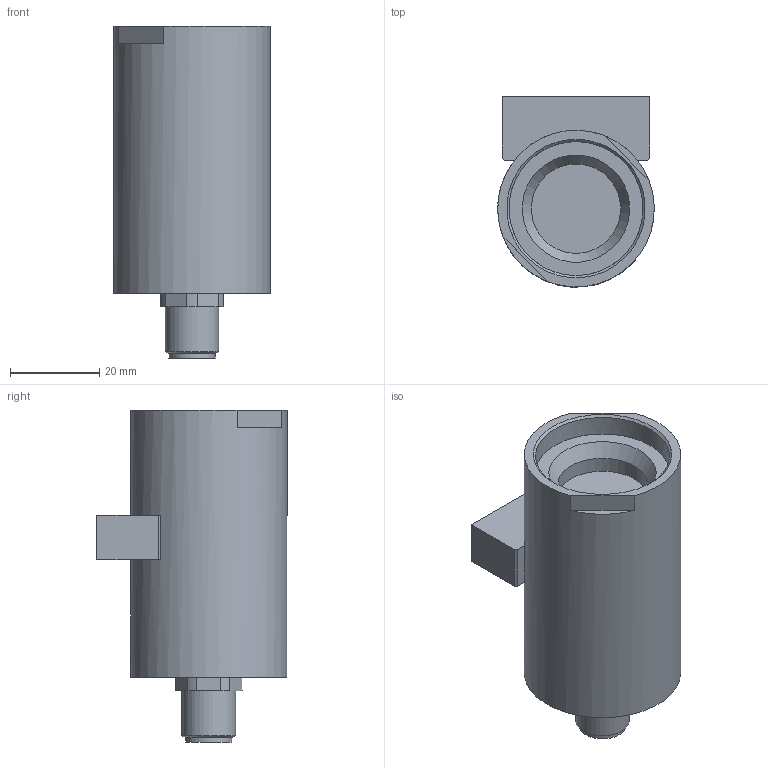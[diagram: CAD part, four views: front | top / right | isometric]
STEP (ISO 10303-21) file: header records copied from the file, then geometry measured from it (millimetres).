
FILE_DESCRIPTION( ( '' ), '1' );
FILE_NAME( 'L:/01_Produktserie LUMIMAX/Spot-Serie/Spot3W/03_Konstruktion/Spot3W Datenblatt & Download/Spot3W.stp', '%{Zugriffsdatum}', ( 'Christian Koch' ), ( 'iiM AG' ), 'PSStep 13.0', 'Solid Edge', ' ' );
FILE_SCHEMA( ( 'AUTOMOTIVE_DESIGN { 1 0 10303 214 1 1 1 1 }' ) );
Length unit declared in the file: millimetre
Products named in the file (1): 1
Bounding box: 34.97 x 42.49 x 74.2 mm (x, y, z)
Volume: 55682.9 mm3; surface area: 12139.7 mm2
Topology: 1 solids, 4 shells, 103 faces, 261 edges, 171 vertices
Faces by surface type: plane 55, cylinder 31, cone 9, sphere 4, torus 4
Full cylindrical faces by diameter (mm): 1 x4, 4 x1, 4.134 x2, 4.5 x1, 7 x1, 8 x1, 8.3 x1, 10.4 x1, 12 x1, 14 x1, 20 x1, 23.9 x1, 24 x1, 29.959 x1, 35 x1
Entity records: 3618 total; most frequent: CARTESIAN_POINT 567, DIRECTION 472, ORIENTED_EDGE 392, EDGE_CURVE 196, AXIS2_PLACEMENT_3D 180, EDGE_LOOP 152, VERTEX_POINT 147, FACE_OUTER_BOUND 126
